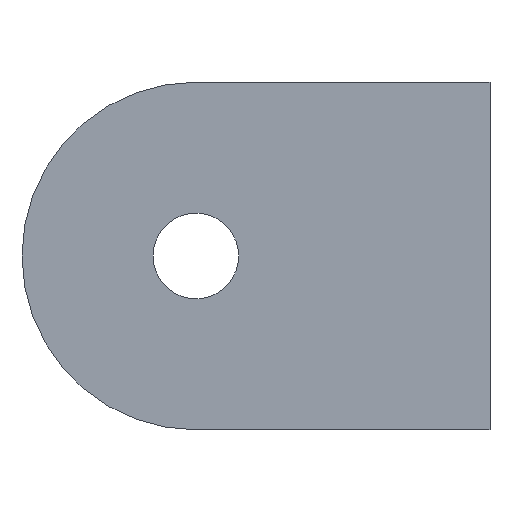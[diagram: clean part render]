
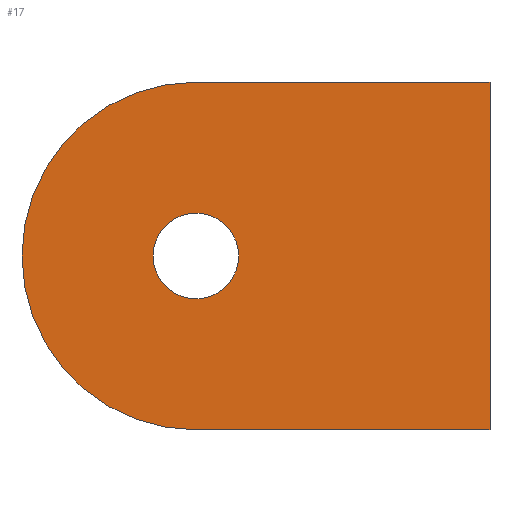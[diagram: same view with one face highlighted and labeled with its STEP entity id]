
A CAD part, left-side view. The second image highlights one B-rep face of the part: STEP entity #17.
In plain terms, the highlighted planar face has unit normal (-1, 0, 0).
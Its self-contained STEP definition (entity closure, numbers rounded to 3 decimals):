
#17 = ADVANCED_FACE('',(#18,#138),#32,.F.);
#18 = FACE_BOUND('',#19,.F.);
#19 = EDGE_LOOP('',(#20,#55,#83,#111));
#20 = ORIENTED_EDGE('',*,*,#21,.F.);
#21 = EDGE_CURVE('',#22,#24,#26,.T.);
#22 = VERTEX_POINT('',#23);
#23 = CARTESIAN_POINT('',(0.,0.,26.));
#24 = VERTEX_POINT('',#25);
#25 = CARTESIAN_POINT('',(0.,22.,26.));
#26 = SURFACE_CURVE('',#27,(#31,#43),.PCURVE_S1.);
#27 = LINE('',#28,#29);
#28 = CARTESIAN_POINT('',(0.,0.,26.));
#29 = VECTOR('',#30,1.);
#30 = DIRECTION('',(0.,1.,0.));
#31 = PCURVE('',#32,#37);
#32 = PLANE('',#33);
#33 = AXIS2_PLACEMENT_3D('',#34,#35,#36);
#34 = CARTESIAN_POINT('',(0.,0.,0.));
#35 = DIRECTION('',(1.,0.,0.));
#36 = DIRECTION('',(0.,0.,1.));
#37 = DEFINITIONAL_REPRESENTATION('',(#38),#42);
#38 = LINE('',#39,#40);
#39 = CARTESIAN_POINT('',(26.,0.));
#40 = VECTOR('',#41,1.);
#41 = DIRECTION('',(0.,-1.));
#42 = ( GEOMETRIC_REPRESENTATION_CONTEXT(2) 
PARAMETRIC_REPRESENTATION_CONTEXT() REPRESENTATION_CONTEXT('2D SPACE',''
  ) );
#43 = PCURVE('',#44,#49);
#44 = PLANE('',#45);
#45 = AXIS2_PLACEMENT_3D('',#46,#47,#48);
#46 = CARTESIAN_POINT('',(0.,0.,26.));
#47 = DIRECTION('',(0.,0.,1.));
#48 = DIRECTION('',(1.,0.,0.));
#49 = DEFINITIONAL_REPRESENTATION('',(#50),#54);
#50 = LINE('',#51,#52);
#51 = CARTESIAN_POINT('',(0.,0.));
#52 = VECTOR('',#53,1.);
#53 = DIRECTION('',(0.,1.));
#54 = ( GEOMETRIC_REPRESENTATION_CONTEXT(2) 
PARAMETRIC_REPRESENTATION_CONTEXT() REPRESENTATION_CONTEXT('2D SPACE',''
  ) );
#55 = ORIENTED_EDGE('',*,*,#56,.F.);
#56 = EDGE_CURVE('',#57,#22,#59,.T.);
#57 = VERTEX_POINT('',#58);
#58 = CARTESIAN_POINT('',(0.,0.,0.));
#59 = SURFACE_CURVE('',#60,(#64,#71),.PCURVE_S1.);
#60 = LINE('',#61,#62);
#61 = CARTESIAN_POINT('',(0.,0.,0.));
#62 = VECTOR('',#63,1.);
#63 = DIRECTION('',(0.,0.,1.));
#64 = PCURVE('',#32,#65);
#65 = DEFINITIONAL_REPRESENTATION('',(#66),#70);
#66 = LINE('',#67,#68);
#67 = CARTESIAN_POINT('',(0.,0.));
#68 = VECTOR('',#69,1.);
#69 = DIRECTION('',(1.,0.));
#70 = ( GEOMETRIC_REPRESENTATION_CONTEXT(2) 
PARAMETRIC_REPRESENTATION_CONTEXT() REPRESENTATION_CONTEXT('2D SPACE',''
  ) );
#71 = PCURVE('',#72,#77);
#72 = PLANE('',#73);
#73 = AXIS2_PLACEMENT_3D('',#74,#75,#76);
#74 = CARTESIAN_POINT('',(0.,0.,0.));
#75 = DIRECTION('',(0.,1.,0.));
#76 = DIRECTION('',(0.,0.,1.));
#77 = DEFINITIONAL_REPRESENTATION('',(#78),#82);
#78 = LINE('',#79,#80);
#79 = CARTESIAN_POINT('',(0.,0.));
#80 = VECTOR('',#81,1.);
#81 = DIRECTION('',(1.,0.));
#82 = ( GEOMETRIC_REPRESENTATION_CONTEXT(2) 
PARAMETRIC_REPRESENTATION_CONTEXT() REPRESENTATION_CONTEXT('2D SPACE',''
  ) );
#83 = ORIENTED_EDGE('',*,*,#84,.T.);
#84 = EDGE_CURVE('',#57,#85,#87,.T.);
#85 = VERTEX_POINT('',#86);
#86 = CARTESIAN_POINT('',(0.,22.,0.));
#87 = SURFACE_CURVE('',#88,(#92,#99),.PCURVE_S1.);
#88 = LINE('',#89,#90);
#89 = CARTESIAN_POINT('',(0.,0.,0.));
#90 = VECTOR('',#91,1.);
#91 = DIRECTION('',(0.,1.,0.));
#92 = PCURVE('',#32,#93);
#93 = DEFINITIONAL_REPRESENTATION('',(#94),#98);
#94 = LINE('',#95,#96);
#95 = CARTESIAN_POINT('',(0.,0.));
#96 = VECTOR('',#97,1.);
#97 = DIRECTION('',(0.,-1.));
#98 = ( GEOMETRIC_REPRESENTATION_CONTEXT(2) 
PARAMETRIC_REPRESENTATION_CONTEXT() REPRESENTATION_CONTEXT('2D SPACE',''
  ) );
#99 = PCURVE('',#100,#105);
#100 = PLANE('',#101);
#101 = AXIS2_PLACEMENT_3D('',#102,#103,#104);
#102 = CARTESIAN_POINT('',(0.,0.,0.));
#103 = DIRECTION('',(0.,0.,1.));
#104 = DIRECTION('',(1.,0.,0.));
#105 = DEFINITIONAL_REPRESENTATION('',(#106),#110);
#106 = LINE('',#107,#108);
#107 = CARTESIAN_POINT('',(0.,0.));
#108 = VECTOR('',#109,1.);
#109 = DIRECTION('',(0.,1.));
#110 = ( GEOMETRIC_REPRESENTATION_CONTEXT(2) 
PARAMETRIC_REPRESENTATION_CONTEXT() REPRESENTATION_CONTEXT('2D SPACE',''
  ) );
#111 = ORIENTED_EDGE('',*,*,#112,.T.);
#112 = EDGE_CURVE('',#85,#24,#113,.T.);
#113 = SURFACE_CURVE('',#114,(#119,#126),.PCURVE_S1.);
#114 = CIRCLE('',#115,13.);
#115 = AXIS2_PLACEMENT_3D('',#116,#117,#118);
#116 = CARTESIAN_POINT('',(0.,22.,13.));
#117 = DIRECTION('',(1.,0.,0.));
#118 = DIRECTION('',(-0.,0.,1.));
#119 = PCURVE('',#32,#120);
#120 = DEFINITIONAL_REPRESENTATION('',(#121),#125);
#121 = CIRCLE('',#122,13.);
#122 = AXIS2_PLACEMENT_2D('',#123,#124);
#123 = CARTESIAN_POINT('',(13.,-22.));
#124 = DIRECTION('',(1.,0.));
#125 = ( GEOMETRIC_REPRESENTATION_CONTEXT(2) 
PARAMETRIC_REPRESENTATION_CONTEXT() REPRESENTATION_CONTEXT('2D SPACE',''
  ) );
#126 = PCURVE('',#127,#132);
#127 = CYLINDRICAL_SURFACE('',#128,13.);
#128 = AXIS2_PLACEMENT_3D('',#129,#130,#131);
#129 = CARTESIAN_POINT('',(0.,22.,13.));
#130 = DIRECTION('',(1.,0.,0.));
#131 = DIRECTION('',(-0.,0.,1.));
#132 = DEFINITIONAL_REPRESENTATION('',(#133),#137);
#133 = LINE('',#134,#135);
#134 = CARTESIAN_POINT('',(0.,0.));
#135 = VECTOR('',#136,1.);
#136 = DIRECTION('',(1.,0.));
#137 = ( GEOMETRIC_REPRESENTATION_CONTEXT(2) 
PARAMETRIC_REPRESENTATION_CONTEXT() REPRESENTATION_CONTEXT('2D SPACE',''
  ) );
#138 = FACE_BOUND('',#139,.F.);
#139 = EDGE_LOOP('',(#140));
#140 = ORIENTED_EDGE('',*,*,#141,.F.);
#141 = EDGE_CURVE('',#142,#142,#144,.T.);
#142 = VERTEX_POINT('',#143);
#143 = CARTESIAN_POINT('',(0.,22.,16.2));
#144 = SURFACE_CURVE('',#145,(#150,#157),.PCURVE_S1.);
#145 = CIRCLE('',#146,3.2);
#146 = AXIS2_PLACEMENT_3D('',#147,#148,#149);
#147 = CARTESIAN_POINT('',(0.,22.,13.));
#148 = DIRECTION('',(1.,0.,0.));
#149 = DIRECTION('',(-0.,0.,1.));
#150 = PCURVE('',#32,#151);
#151 = DEFINITIONAL_REPRESENTATION('',(#152),#156);
#152 = CIRCLE('',#153,3.2);
#153 = AXIS2_PLACEMENT_2D('',#154,#155);
#154 = CARTESIAN_POINT('',(13.,-22.));
#155 = DIRECTION('',(1.,0.));
#156 = ( GEOMETRIC_REPRESENTATION_CONTEXT(2) 
PARAMETRIC_REPRESENTATION_CONTEXT() REPRESENTATION_CONTEXT('2D SPACE',''
  ) );
#157 = PCURVE('',#158,#163);
#158 = CYLINDRICAL_SURFACE('',#159,3.2);
#159 = AXIS2_PLACEMENT_3D('',#160,#161,#162);
#160 = CARTESIAN_POINT('',(-1.,22.,13.));
#161 = DIRECTION('',(1.,0.,0.));
#162 = DIRECTION('',(-0.,0.,1.));
#163 = DEFINITIONAL_REPRESENTATION('',(#164),#168);
#164 = LINE('',#165,#166);
#165 = CARTESIAN_POINT('',(0.,1.));
#166 = VECTOR('',#167,1.);
#167 = DIRECTION('',(1.,0.));
#168 = ( GEOMETRIC_REPRESENTATION_CONTEXT(2) 
PARAMETRIC_REPRESENTATION_CONTEXT() REPRESENTATION_CONTEXT('2D SPACE',''
  ) );
